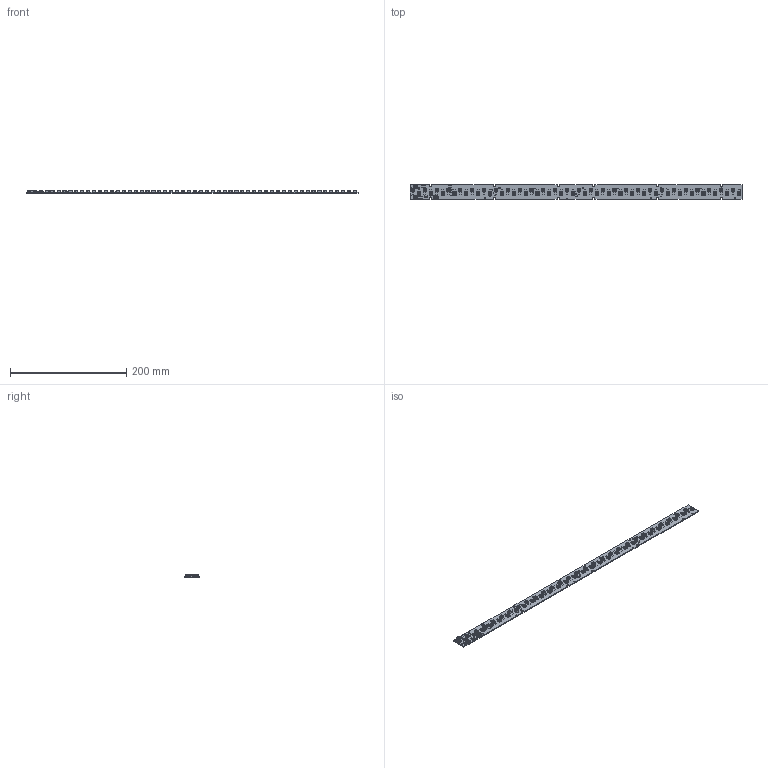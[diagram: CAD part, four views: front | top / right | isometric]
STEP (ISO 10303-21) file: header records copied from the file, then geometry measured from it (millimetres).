
FILE_DESCRIPTION((''),'2;1');
FILE_NAME('Q56DZ2250_06232021_10-22-07_ASM','2021-06-23T',('SYSTEM'),(''),'PRO/ENGINEER BY PARAMETRIC TECHNOLOGY CORPORATION, 2009360','PRO/ENGINEER BY PARAMETRIC TECHNOLOGY CORPORATION, 2009360','');
FILE_SCHEMA(('AUTOMOTIVE_DESIGN_CC2 { 1 2 10303 214 -1 1 5 2 }'));
Length unit declared in the file: inch
Products named in the file (7): Q56DZ2250_06232021_10-22-07; RESC1608X84N; RESC6431X63N; 3030_LED; PLCC6; WAGO_2059_2PIN; Q56DZ2250_06232021_10-22-07_ASM
Assembly tree (128 placements, depth 2):
  Q56DZ2250_06232021_10-22-07_ASM
    Q56DZ2250_06232021_10-22-07
    RESC1608X84N  x8
    RESC6431X63N  x4
    3030_LED  x56
    PLCC6  x56
    WAGO_2059_2PIN  x3
Bounding box: 571.5 x 25.4 x 4.35 mm (x, y, z)
Volume: 26876.6 mm3; surface area: 40937.3 mm2
Topology: 128 solids, 128 shells, 6314 faces, 16686 edges, 10894 vertices
Faces by surface type: plane 4805, cylinder 1373, cone 112, torus 24
Entity records: 24583 total; most frequent: CARTESIAN_POINT 3524, DIRECTION 3422, ORIENTED_EDGE 3216, EDGE_CURVE 1608, PRESENTATION_STYLE_ASSIGNMENT 1219, STYLED_ITEM 1219, VECTOR 1168, LINE 1168
